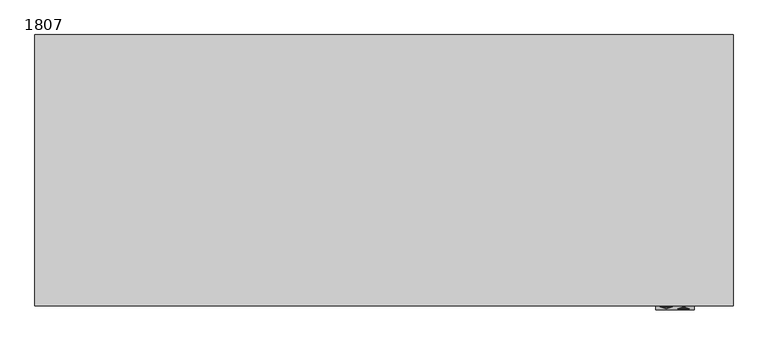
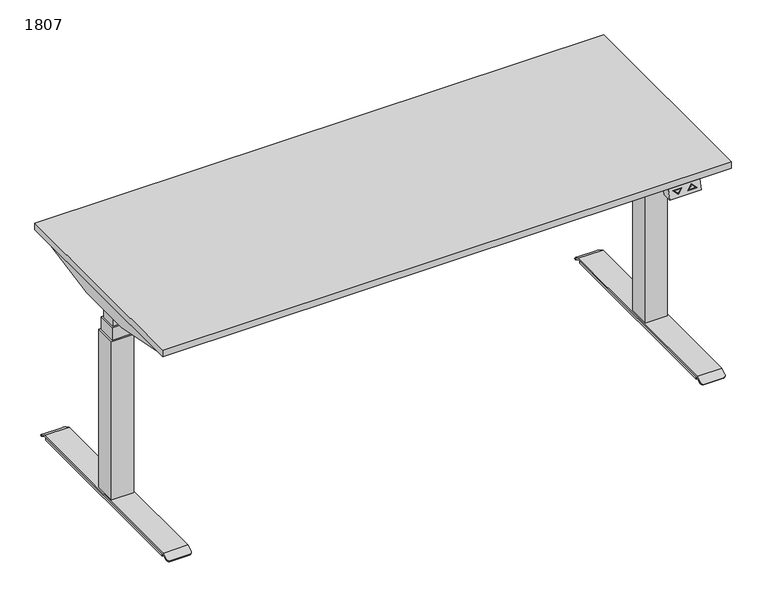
"""IFC4 building model written with IfcOpenShell, lengths in millimetres: furniture geometry, PINTA EQC : 1807."""

from ifc_helpers import new_model, si_unit, point, frame, frame_2d, origin, origin_with_axes, place, context, project, spatial, polyline, circle_curve, trimmed, segment, composite_curve, outline, extrude, faceted_brep, source, transform, mapped, element, save
from ifc_brep_helpers import plane_surface, cylinder_surface, advanced_brep


def furniture_1807_f50c2a5f(model_context):
    return source(origin(), model_context, "Body", "SolidModel", [
        faceted_brep([(700.0, -710.0, 668.0), (700.0, -680.0, 668.0), (800.0, -680.0, 668.0), (800.0, -710.0, 668.0), (700.0, -700.0, 698.0), (800.0, -700.0, 698.0), (800.0, -670.0, 698.0), (700.0, -670.0, 698.0), (712.5, -702.6491106, 690.0526681), (742.5, -702.6491106, 690.0526681), (727.5, -707.3925271, 675.8224186), (787.5, -706.9174824, 677.2475529), (757.5, -706.9174824, 677.2475529), (772.5, -702.1740659, 691.4778023), (727.5, -706.4980999, 678.5057002), (737.6715729, -703.2815662, 688.1553015), (717.3284271, -703.2815662, 688.1553015), (782.6715729, -706.2850268, 679.1449195), (772.5, -703.0684931, 688.7945208), (762.3284271, -706.2850268, 679.1449195), (742.5, -701.7004273, 689.7364403), (712.5, -701.7004273, 689.7364403), (727.5, -706.4438438, 675.5061908), (737.6715729, -702.3328829, 687.8390737), (727.5, -705.5494166, 678.1894724), (717.3284271, -702.3328829, 687.8390737), (757.5, -705.9687991, 676.9313251), (787.5, -705.9687991, 676.9313251), (772.5, -701.2253826, 691.1615746), (772.5, -702.1198098, 688.478293), (782.6715729, -705.3363436, 678.8286917), (762.3284271, -705.3363436, 678.8286917)], [[[0, 1, 2, 3]], [[4, 5, 6, 7]], [[1, 0, 4, 7]], [[3, 2, 6, 5]], [[0, 3, 5, 4], [8, 9, 10], [11, 12, 13]], [[14, 15, 16]], [[17, 18, 19]], [[2, 1, 7, 6]], [[20, 21, 22], [23, 24, 25]], [[26, 27, 28], [29, 30, 31]], [[21, 20, 9, 8]], [[22, 21, 8, 10]], [[20, 22, 10, 9]], [[27, 26, 12, 11]], [[28, 27, 11, 13]], [[26, 28, 13, 12]], [[24, 23, 15, 14]], [[25, 24, 14, 16]], [[23, 25, 16, 15]], [[30, 29, 18, 17]], [[31, 30, 17, 19]], [[29, 31, 19, 18]]]),
        extrude(outline(polyline([(-880.0, -269.7732113), (880.0, -269.7733158), (880.0, -289.7733158), (-880.0, -289.7732113), (-880.0, -269.7732113)])), frame((0.0, 0.0, 658.0), z_axis=(0.0, 0.0, 1.0), x_axis=(1.0, 0.0, 0.0)), (0.0, 0.0, 1.0), 40.0),
        extrude(outline(polyline([(-880.0, -409.7732114), (880.0, -409.7733158), (880.0, -429.7733158), (-880.0, -429.7732114), (-880.0, -409.7732114)])), frame((0.0, 0.0, 658.0), z_axis=(0.0, 0.0, 1.0), x_axis=(1.0, 0.0, 0.0)), (0.0, 0.0, 1.0), 40.0),
        extrude(outline(polyline([(-900.0, -700.0), (-900.0, 0.0), (900.0, 0.0), (900.0, -700.0), (-900.0, -700.0)])), frame((0.0, 0.0, 698.0), z_axis=(0.0, 0.0, 1.0), x_axis=(1.0, 0.0, 0.0)), (0.0, 0.0, 1.0), 22.0),
        advanced_brep(
        [(806.9772339, -670.0, 6.0), (806.9772339, -670.0, 16.0), (806.9772339, -30.0, 16.0), (806.9772339, -30.0, 6.0), (883.0227661, -30.0, 16.0), (883.0227661, -30.0, 6.0), (883.0227661, -670.0, 16.0), (883.0227661, -670.0, 6.0), (806.0, -25.0, 20.0), (806.0, -6.9800481, 9.908827), (806.0, -8.9344616, 6.4188029), (806.0, -26.0437422, 16.0), (806.0, -673.9562578, 16.0), (806.0, -691.0655384, 6.4188029), (806.0, -693.0199519, 9.908827), (806.0, -675.0, 20.0), (884.0, -26.0437422, 16.0), (884.0, -8.9344616, 6.4188029), (884.0, -6.9800481, 9.908827), (884.0, -25.0, 20.0), (884.0, -675.0, 20.0), (884.0, -693.0199519, 9.908827), (884.0, -691.0655384, 6.4188029), (884.0, -673.9562578, 16.0), (814.0, -700.0, 6.0), (876.0, -700.0, 6.0), (814.0, -698.0455865, 2.5099759), (876.0, -698.0455865, 2.5099759), (814.0, -1.9544135, 2.5099759), (876.0, -1.9544135, 2.5099759), (814.0, 0.0, 6.0), (876.0, 0.0, 6.0)],
        [
            (0, 1),
            (1, 2),
            (2, 3),
            (3, 0),
            (2, 4),
            (4, 5),
            (5, 3),
            (4, 6),
            (6, 7),
            (7, 5),
            (6, 1),
            (0, 7),
            (8, 9),
            (9, 10),
            (10, 11),
            (11, 12),
            (12, 13),
            (13, 14),
            (14, 15),
            (15, 8),
            (16, 17),
            (17, 18),
            (18, 19),
            (19, 20),
            (20, 21),
            (21, 22),
            (22, 23),
            (23, 16),
            (15, 20),
            (19, 8),
            (11, 16),
            (23, 12),
            (14, 24, circle_curve(frame((814.0, -693.0199519, 9.908827), z_axis=(0.0, -0.4886033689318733, 0.8725060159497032), x_axis=(0.0, 0.8725060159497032, 0.4886033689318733)), 8.0)),
            (24, 25),
            (25, 21, circle_curve(frame((876.0, -693.0199519, 9.908827), z_axis=(0.0, -0.4886033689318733, 0.8725060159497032), x_axis=(0.0, 0.8725060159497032, 0.4886033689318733)), 8.0)),
            (24, 26),
            (26, 27),
            (27, 25),
            (22, 27, circle_curve(frame((876.0, -691.0655384, 6.4188029), z_axis=(0.0, 0.4886033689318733, -0.8725060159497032), x_axis=(0.0, 0.8725060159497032, 0.4886033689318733)), 8.0)),
            (26, 13, circle_curve(frame((814.0, -691.0655384, 6.4188029), z_axis=(0.0, 0.4886033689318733, -0.8725060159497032), x_axis=(0.0, 0.8725060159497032, 0.4886033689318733)), 8.0)),
            (10, 28, circle_curve(frame((814.0, -8.9344616, 6.4188029), z_axis=(0.0, -0.4886033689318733, -0.8725060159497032), x_axis=(0.0, -0.8725060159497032, 0.4886033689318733)), 8.0)),
            (28, 29),
            (29, 17, circle_curve(frame((876.0, -8.9344616, 6.4188029), z_axis=(0.0, -0.4886033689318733, -0.8725060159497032), x_axis=(0.0, -0.8725060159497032, 0.4886033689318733)), 8.0)),
            (28, 30),
            (30, 31),
            (31, 29),
            (18, 31, circle_curve(frame((876.0, -6.9800481, 9.908827), z_axis=(0.0, 0.4886033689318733, 0.8725060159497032), x_axis=(0.0, -0.8725060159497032, 0.4886033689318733)), 8.0)),
            (30, 9, circle_curve(frame((814.0, -6.9800481, 9.908827), z_axis=(0.0, 0.4886033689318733, 0.8725060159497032), x_axis=(0.0, -0.8725060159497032, 0.4886033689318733)), 8.0)),
        ],
        [
            plane_surface(frame((806.9772339, -670.0, 16.0), z_axis=(-1.0, 0.0, 0.0), x_axis=(0.0, 0.0, -1.0))),
            plane_surface(frame((806.9772339, -30.0, 16.0), z_axis=(0.0, 1.0, 0.0), x_axis=(0.0, 0.0, -1.0))),
            plane_surface(frame((883.0227661, -30.0, 16.0), z_axis=(1.0, 0.0, 0.0), x_axis=(0.0, 0.0, -1.0))),
            plane_surface(frame((883.0227661, -670.0, 16.0), z_axis=(0.0, -1.0, 0.0), x_axis=(0.0, 0.0, -1.0))),
            plane_surface(frame((806.9772339, -673.4188232, 6.0), z_axis=(0.0, 0.0, -1.0), x_axis=(0.0, -1.0, 0.0))),
            plane_surface(frame((806.0, -350.0, 20.0), z_axis=(-1.0, 0.0, 0.0), x_axis=(0.0, -1.0, 0.0))),
            plane_surface(frame((884.0, -350.0, 20.0), z_axis=(1.0, 0.0, 0.0), x_axis=(0.0, 1.0, 0.0))),
            plane_surface(frame((806.0, -25.0, 20.0), z_axis=(0.0, 0.0, 1.0), x_axis=(1.0, 0.0, 0.0))),
            plane_surface(frame((806.0, -673.9562578, 16.0), z_axis=(0.0, 0.0, -1.0), x_axis=(1.0, 0.0, 0.0))),
            plane_surface(frame((806.0, -675.0, 20.0), z_axis=(0.0, -0.4886033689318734, 0.8725060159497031), x_axis=(1.0, 0.0, 0.0))),
            plane_surface(frame((806.0, -700.0, 6.0), z_axis=(0.0, -0.872506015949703, -0.4886033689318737), x_axis=(1.0, 0.0, 0.0))),
            plane_surface(frame((806.0, -698.0455865, 2.5099759), z_axis=(0.0, 0.4886033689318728, -0.8725060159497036), x_axis=(1.0, 0.0, 0.0))),
            plane_surface(frame((806.0, -26.0437422, 16.0), z_axis=(0.0, -0.4886033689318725, -0.8725060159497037), x_axis=(1.0, 0.0, 0.0))),
            plane_surface(frame((806.0, -1.9544135, 2.5099759), z_axis=(0.0, 0.8725060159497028, -0.48860336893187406), x_axis=(1.0, 0.0, 0.0))),
            plane_surface(frame((806.0, 0.0, 6.0), z_axis=(0.0, 0.48860336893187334, 0.8725060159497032), x_axis=(1.0, 0.0, 0.0))),
            cylinder_surface(frame((814.0, -693.0199519, 9.908827), z_axis=(0.0, -0.4886033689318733, 0.8725060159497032), x_axis=(0.0, 0.8725060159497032, 0.4886033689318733)), 8.0),
            cylinder_surface(frame((876.0, -693.0199519, 9.908827), z_axis=(0.0, -0.4886033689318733, 0.8725060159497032), x_axis=(0.0, 0.8725060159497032, 0.4886033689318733)), 8.0),
            cylinder_surface(frame((814.0, -6.9800481, 9.908827), z_axis=(0.0, 0.4886033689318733, 0.8725060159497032), x_axis=(0.0, -0.8725060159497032, 0.4886033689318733)), 8.0),
            cylinder_surface(frame((876.0, -6.9800481, 9.908827), z_axis=(0.0, 0.4886033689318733, 0.8725060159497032), x_axis=(0.0, -0.8725060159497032, 0.4886033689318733)), 8.0),
        ],
        [
            (0, [[1, 2, 3, 4]]),
            (1, [[-3, 5, 6, 7]]),
            (2, [[-6, 8, 9, 10]]),
            (3, [[-9, 11, -1, 12]]),
            (4, [[-4, -7, -10, -12]]),
            (5, [[13, 14, 15, 16, 17, 18, 19, 20]]),
            (6, [[21, 22, 23, 24, 25, 26, 27, 28]]),
            (7, [[29, -24, 30, -20]]),
            (8, [[31, -28, 32, -16], [-11, -8, -5, -2]]),
            (9, [[-19, 33, 34, 35, -25, -29]]),
            (10, [[36, 37, 38, -34]]),
            (11, [[-27, 39, -37, 40, -17, -32]]),
            (12, [[-15, 41, 42, 43, -21, -31]]),
            (13, [[44, 45, 46, -42]]),
            (14, [[-23, 47, -45, 48, -13, -30]]),
            (15, [[-40, -36, -33, -18]]),
            (16, [[-35, -38, -39, -26]]),
            (17, [[-48, -44, -41, -14]]),
            (18, [[-43, -46, -47, -22]]),
        ],
    ),
        faceted_brep([(679.4551307, -410.0, 698.0), (862.9996948, -410.0, 698.0), (862.9996948, -650.0, 698.0), (879.4551307, -650.0, 698.0), (883.0, -650.0, 698.0), (883.0, -50.0, 698.0), (879.4551307, -50.0, 698.0), (862.9996948, -50.0, 698.0), (862.9996948, -290.0, 698.0), (679.4551307, -290.0, 698.0), (679.4551307, -410.0, 635.2327881), (679.4551307, -290.0, 635.2327881), (879.4551307, -290.0, 635.2327881), (879.4551307, -253.8252348, 635.2327881), (883.0, -253.8252348, 635.2327881), (883.0, -446.1747652, 635.2327881), (879.4551307, -446.1747652, 635.2327881), (879.4551307, -410.0, 635.2327881), (862.9996948, -290.0, 694.9093018), (879.4551307, -290.0, 694.9093018), (879.4551307, -410.0, 694.9093018), (862.9996948, -410.0, 694.9093018), (879.4551307, -650.0, 694.9093018), (862.9996948, -650.0, 694.9093018), (879.4551307, -50.0, 694.9093018), (862.9996948, -50.0, 694.9093018), (879.4551307, -51.1249222, 694.9093018), (879.4551307, -648.8750778, 694.9093018), (879.4551307, -58.5505036, 674.5076845), (879.4551307, -641.4494964, 674.5076845), (883.0, -58.5505036, 674.5076845), (883.0, -641.4494964, 674.5076845)], [[[0, 1, 2, 3, 4, 5, 6, 7, 8, 9]], [[10, 11, 12, 13, 14, 15, 16, 17]], [[9, 11, 10, 0]], [[11, 9, 8, 18, 19, 12]], [[17, 20, 21, 1, 0, 10]], [[22, 3, 2, 23]], [[24, 25, 7, 6]], [[24, 26, 19, 18, 25]], [[23, 21, 20, 27, 22]], [[2, 1, 21, 23]], [[25, 18, 8, 7]], [[13, 12, 19, 26, 28]], [[29, 27, 20, 17, 16]], [[15, 14, 30, 5, 4, 31]], [[16, 15, 31, 29]], [[22, 27, 3]], [[6, 26, 24]], [[4, 3, 27, 29, 31]], [[28, 30, 14, 13]], [[30, 28, 26, 6, 5]]]),
        extrude(outline(composite_curve([segment(trimmed(circle_curve(frame_2d((845.0, -655.0)), 25.0), [point((870.0, -655.0))], [point((820.0, -655.0))], False, "CARTESIAN"), True, "CONTINUOUS"), segment(trimmed(circle_curve(frame_2d((845.0, -655.0)), 25.0), [point((820.0, -655.0))], [point((870.0, -655.0))], False, "CARTESIAN"), True, "CONTINUOUS")], self_intersect=False)), origin_with_axes(), (0.0, 0.0, 1.0), 6.0),
        extrude(outline(composite_curve([segment(trimmed(circle_curve(frame_2d((845.0, -45.0)), 25.0), [point((870.0, -45.0))], [point((820.0, -45.0))], False, "CARTESIAN"), True, "CONTINUOUS"), segment(trimmed(circle_curve(frame_2d((845.0, -45.0)), 25.0), [point((820.0, -45.0))], [point((870.0, -45.0))], False, "CARTESIAN"), True, "CONTINUOUS")], self_intersect=False)), origin_with_axes(), (0.0, 0.0, 1.0), 6.0),
        faceted_brep([(810.0, -315.0, 550.0), (810.0, -384.9621325, 550.0), (880.0, -384.9621325, 550.0), (880.0, -315.0, 550.0), (875.0, -320.0, 550.0), (875.0, -379.9621325, 550.0), (815.0, -379.9621325, 550.0), (815.0, -320.0, 550.0), (810.0, -315.0, 20.0), (880.0, -315.0, 20.0), (880.0, -384.9621325, 20.0), (810.0, -384.9621325, 20.0), (815.0, -320.0, 592.616394), (815.0, -379.9621325, 592.616394), (875.0, -379.9621325, 592.616394), (875.0, -320.0, 592.616394), (870.0, -325.0, 592.616394), (870.0, -374.9621325, 592.616394), (820.0, -374.9621325, 592.616394), (820.0, -325.0, 592.616394), (820.0, -325.0, 635.2327881), (820.0, -374.9621325, 635.2327881), (870.0, -374.9621325, 635.2327881), (870.0, -325.0, 635.2327881)], [[[0, 1, 2, 3], [4, 5, 6, 7]], [[8, 9, 10, 11]], [[3, 9, 8, 0]], [[2, 10, 9, 3]], [[1, 11, 10, 2]], [[0, 8, 11, 1]], [[12, 13, 14, 15], [16, 17, 18, 19]], [[15, 4, 7, 12]], [[14, 5, 4, 15]], [[13, 6, 5, 14]], [[12, 7, 6, 13]], [[20, 21, 22, 23]], [[23, 16, 19, 20]], [[22, 17, 16, 23]], [[21, 18, 17, 22]], [[20, 19, 18, 21]]]),
        advanced_brep(
        [(-806.9772339, -670.0, 6.0), (-806.9772339, -30.0, 6.0), (-806.9772339, -30.0, 16.0), (-806.9772339, -670.0, 16.0), (-883.0227661, -30.0, 6.0), (-883.0227661, -30.0, 16.0), (-883.0227661, -670.0, 6.0), (-883.0227661, -670.0, 16.0), (-806.0, -25.0, 20.0), (-806.0, -675.0, 20.0), (-806.0, -693.0199519, 9.908827), (-806.0, -691.0655384, 6.4188029), (-806.0, -673.9562578, 16.0), (-806.0, -26.0437422, 16.0), (-806.0, -8.9344616, 6.4188029), (-806.0, -6.9800481, 9.908827), (-884.0, -26.0437422, 16.0), (-884.0, -673.9562578, 16.0), (-884.0, -691.0655384, 6.4188029), (-884.0, -693.0199519, 9.908827), (-884.0, -675.0, 20.0), (-884.0, -25.0, 20.0), (-884.0, -6.9800481, 9.908827), (-884.0, -8.9344616, 6.4188029), (-876.0, -700.0, 6.0), (-814.0, -700.0, 6.0), (-876.0, -698.0455865, 2.5099759), (-814.0, -698.0455865, 2.5099759), (-876.0, -1.9544135, 2.5099759), (-814.0, -1.9544135, 2.5099759), (-876.0, 0.0, 6.0), (-814.0, 0.0, 6.0)],
        [
            (0, 1),
            (1, 2),
            (2, 3),
            (3, 0),
            (1, 4),
            (4, 5),
            (5, 2),
            (4, 6),
            (6, 7),
            (7, 5),
            (6, 0),
            (3, 7),
            (8, 9),
            (9, 10),
            (10, 11),
            (11, 12),
            (12, 13),
            (13, 14),
            (14, 15),
            (15, 8),
            (16, 17),
            (17, 18),
            (18, 19),
            (19, 20),
            (20, 21),
            (21, 22),
            (22, 23),
            (23, 16),
            (8, 21),
            (20, 9),
            (12, 17),
            (16, 13),
            (19, 24, circle_curve(frame((-876.0, -693.0199519, 9.908827), z_axis=(0.0, -0.4886033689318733, 0.8725060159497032), x_axis=(0.0, 0.8725060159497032, 0.4886033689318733)), 8.0)),
            (24, 25),
            (25, 10, circle_curve(frame((-814.0, -693.0199519, 9.908827), z_axis=(0.0, -0.4886033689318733, 0.8725060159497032), x_axis=(0.0, 0.8725060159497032, 0.4886033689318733)), 8.0)),
            (24, 26),
            (26, 27),
            (27, 25),
            (11, 27, circle_curve(frame((-814.0, -691.0655384, 6.4188029), z_axis=(0.0, 0.4886033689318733, -0.8725060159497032), x_axis=(0.0, 0.8725060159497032, 0.4886033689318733)), 8.0)),
            (26, 18, circle_curve(frame((-876.0, -691.0655384, 6.4188029), z_axis=(0.0, 0.4886033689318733, -0.8725060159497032), x_axis=(0.0, 0.8725060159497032, 0.4886033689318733)), 8.0)),
            (23, 28, circle_curve(frame((-876.0, -8.9344616, 6.4188029), z_axis=(0.0, -0.4886033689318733, -0.8725060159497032), x_axis=(0.0, -0.8725060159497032, 0.4886033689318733)), 8.0)),
            (28, 29),
            (29, 14, circle_curve(frame((-814.0, -8.9344616, 6.4188029), z_axis=(0.0, -0.4886033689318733, -0.8725060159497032), x_axis=(0.0, -0.8725060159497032, 0.4886033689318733)), 8.0)),
            (28, 30),
            (30, 31),
            (31, 29),
            (15, 31, circle_curve(frame((-814.0, -6.9800481, 9.908827), z_axis=(0.0, 0.4886033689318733, 0.8725060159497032), x_axis=(0.0, -0.8725060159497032, 0.4886033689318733)), 8.0)),
            (30, 22, circle_curve(frame((-876.0, -6.9800481, 9.908827), z_axis=(0.0, 0.4886033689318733, 0.8725060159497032), x_axis=(0.0, -0.8725060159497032, 0.4886033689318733)), 8.0)),
        ],
        [
            plane_surface(frame((-806.9772339, -670.0, 16.0), z_axis=(1.0, 0.0, 0.0), x_axis=(0.0, 0.0, -1.0))),
            plane_surface(frame((-806.9772339, -30.0, 16.0), z_axis=(0.0, 1.0, 0.0), x_axis=(0.0, 0.0, -1.0))),
            plane_surface(frame((-883.0227661, -30.0, 16.0), z_axis=(-1.0, 0.0, 0.0), x_axis=(0.0, 0.0, -1.0))),
            plane_surface(frame((-883.0227661, -670.0, 16.0), z_axis=(0.0, -1.0, 0.0), x_axis=(0.0, 0.0, -1.0))),
            plane_surface(frame((-806.9772339, -673.4188232, 6.0), z_axis=(0.0, 0.0, -1.0), x_axis=(0.0, -1.0, 0.0))),
            plane_surface(frame((-806.0, -350.0, 20.0), z_axis=(1.0, 0.0, 0.0), x_axis=(0.0, -1.0, 0.0))),
            plane_surface(frame((-884.0, -350.0, 20.0), z_axis=(-1.0, 0.0, 0.0), x_axis=(0.0, 1.0, 0.0))),
            plane_surface(frame((-806.0, -25.0, 20.0), z_axis=(0.0, 0.0, 1.0), x_axis=(-1.0, 0.0, 0.0))),
            plane_surface(frame((-806.0, -673.9562578, 16.0), z_axis=(0.0, 0.0, -1.0), x_axis=(-1.0, 0.0, 0.0))),
            plane_surface(frame((-806.0, -675.0, 20.0), z_axis=(0.0, -0.4886033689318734, 0.8725060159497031), x_axis=(-1.0, 0.0, 0.0))),
            plane_surface(frame((-806.0, -700.0, 6.0), z_axis=(0.0, -0.872506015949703, -0.4886033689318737), x_axis=(-1.0, 0.0, 0.0))),
            plane_surface(frame((-806.0, -698.0455865, 2.5099759), z_axis=(0.0, 0.4886033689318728, -0.8725060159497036), x_axis=(-1.0, 0.0, 0.0))),
            plane_surface(frame((-806.0, -26.0437422, 16.0), z_axis=(0.0, -0.4886033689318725, -0.8725060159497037), x_axis=(-1.0, 0.0, 0.0))),
            plane_surface(frame((-806.0, -1.9544135, 2.5099759), z_axis=(0.0, 0.8725060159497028, -0.48860336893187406), x_axis=(-1.0, 0.0, 0.0))),
            plane_surface(frame((-806.0, 0.0, 6.0), z_axis=(0.0, 0.48860336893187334, 0.8725060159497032), x_axis=(-1.0, 0.0, 0.0))),
            cylinder_surface(frame((-814.0, -693.0199519, 9.908827), z_axis=(0.0, -0.4886033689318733, 0.8725060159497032), x_axis=(0.0, 0.8725060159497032, 0.4886033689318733)), 8.0),
            cylinder_surface(frame((-876.0, -693.0199519, 9.908827), z_axis=(0.0, -0.4886033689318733, 0.8725060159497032), x_axis=(0.0, 0.8725060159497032, 0.4886033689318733)), 8.0),
            cylinder_surface(frame((-814.0, -6.9800481, 9.908827), z_axis=(0.0, 0.4886033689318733, 0.8725060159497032), x_axis=(0.0, -0.8725060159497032, 0.4886033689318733)), 8.0),
            cylinder_surface(frame((-876.0, -6.9800481, 9.908827), z_axis=(0.0, 0.4886033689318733, 0.8725060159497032), x_axis=(0.0, -0.8725060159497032, 0.4886033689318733)), 8.0),
        ],
        [
            (0, [[1, 2, 3, 4]]),
            (1, [[5, 6, 7, -2]]),
            (2, [[8, 9, 10, -6]]),
            (3, [[11, -4, 12, -9]]),
            (4, [[-11, -8, -5, -1]]),
            (5, [[13, 14, 15, 16, 17, 18, 19, 20]]),
            (6, [[21, 22, 23, 24, 25, 26, 27, 28]]),
            (7, [[-13, 29, -25, 30]]),
            (8, [[-17, 31, -21, 32], [-3, -7, -10, -12]]),
            (9, [[-30, -24, 33, 34, 35, -14]]),
            (10, [[-34, 36, 37, 38]]),
            (11, [[-31, -16, 39, -37, 40, -22]]),
            (12, [[-32, -28, 41, 42, 43, -18]]),
            (13, [[-42, 44, 45, 46]]),
            (14, [[-29, -20, 47, -45, 48, -26]]),
            (15, [[-15, -35, -38, -39]]),
            (16, [[-23, -40, -36, -33]]),
            (17, [[-19, -43, -46, -47]]),
            (18, [[-27, -48, -44, -41]]),
        ],
    ),
        faceted_brep([(-679.4551307, -410.0, 698.0), (-679.4551307, -290.0, 698.0), (-862.9996948, -290.0, 698.0), (-862.9996948, -50.0, 698.0), (-879.4551307, -50.0, 698.0), (-883.0, -50.0, 698.0), (-883.0, -650.0, 698.0), (-879.4551307, -650.0, 698.0), (-862.9996948, -650.0, 698.0), (-862.9996948, -410.0, 698.0), (-679.4551307, -410.0, 635.2327881), (-879.4551307, -410.0, 635.2327881), (-879.4551307, -446.1747652, 635.2327881), (-883.0, -446.1747652, 635.2327881), (-883.0, -253.8252348, 635.2327881), (-879.4551307, -253.8252348, 635.2327881), (-879.4551307, -290.0, 635.2327881), (-679.4551307, -290.0, 635.2327881), (-879.4551307, -290.0, 694.9093018), (-862.9996948, -290.0, 694.9093018), (-862.9996948, -410.0, 694.9093018), (-879.4551307, -410.0, 694.9093018), (-879.4551307, -650.0, 694.9093018), (-862.9996948, -650.0, 694.9093018), (-879.4551307, -50.0, 694.9093018), (-862.9996948, -50.0, 694.9093018), (-879.4551307, -648.8750778, 694.9093018), (-879.4551307, -51.1249222, 694.9093018), (-879.4551307, -641.4494964, 674.5076845), (-879.4551307, -58.5505036, 674.5076845), (-883.0, -641.4494964, 674.5076845), (-883.0, -58.5505036, 674.5076845)], [[[0, 1, 2, 3, 4, 5, 6, 7, 8, 9]], [[10, 11, 12, 13, 14, 15, 16, 17]], [[1, 0, 10, 17]], [[17, 16, 18, 19, 2, 1]], [[11, 10, 0, 9, 20, 21]], [[22, 23, 8, 7]], [[24, 4, 3, 25]], [[23, 22, 26, 21, 20]], [[24, 25, 19, 18, 27]], [[8, 23, 20, 9]], [[25, 3, 2, 19]], [[28, 12, 11, 21, 26]], [[15, 29, 27, 18, 16]], [[13, 30, 6, 5, 31, 14]], [[12, 28, 30, 13]], [[22, 7, 26]], [[4, 24, 27]], [[6, 30, 28, 26, 7]], [[29, 15, 14, 31]], [[31, 5, 4, 27, 29]]]),
        extrude(outline(composite_curve([segment(trimmed(circle_curve(frame_2d((-845.0, -655.0)), 25.0), [point((-870.0, -655.0))], [point((-820.0, -655.0))], False, "CARTESIAN"), True, "CONTINUOUS"), segment(trimmed(circle_curve(frame_2d((-845.0, -655.0)), 25.0), [point((-820.0, -655.0))], [point((-870.0, -655.0))], False, "CARTESIAN"), True, "CONTINUOUS")], self_intersect=False)), origin_with_axes(), (0.0, 0.0, 1.0), 6.0),
        extrude(outline(composite_curve([segment(trimmed(circle_curve(frame_2d((-845.0, -45.0)), 25.0), [point((-870.0, -45.0))], [point((-820.0, -45.0))], False, "CARTESIAN"), True, "CONTINUOUS"), segment(trimmed(circle_curve(frame_2d((-845.0, -45.0)), 25.0), [point((-820.0, -45.0))], [point((-870.0, -45.0))], False, "CARTESIAN"), True, "CONTINUOUS")], self_intersect=False)), origin_with_axes(), (0.0, 0.0, 1.0), 6.0),
        faceted_brep([(-810.0, -315.0, 550.0), (-880.0, -315.0, 550.0), (-880.0, -384.9621325, 550.0), (-810.0, -384.9621325, 550.0), (-875.0, -320.0, 550.0), (-815.0, -320.0, 550.0), (-815.0, -379.9621325, 550.0), (-875.0, -379.9621325, 550.0), (-810.0, -315.0, 20.0), (-810.0, -384.9621325, 20.0), (-880.0, -384.9621325, 20.0), (-880.0, -315.0, 20.0), (-815.0, -320.0, 592.616394), (-875.0, -320.0, 592.616394), (-875.0, -379.9621325, 592.616394), (-815.0, -379.9621325, 592.616394), (-870.0, -325.0, 592.616394), (-820.0, -325.0, 592.616394), (-820.0, -374.9621325, 592.616394), (-870.0, -374.9621325, 592.616394), (-820.0, -325.0, 635.2327881), (-870.0, -325.0, 635.2327881), (-870.0, -374.9621325, 635.2327881), (-820.0, -374.9621325, 635.2327881)], [[[0, 1, 2, 3], [4, 5, 6, 7]], [[8, 9, 10, 11]], [[1, 0, 8, 11]], [[2, 1, 11, 10]], [[3, 2, 10, 9]], [[0, 3, 9, 8]], [[12, 13, 14, 15], [16, 17, 18, 19]], [[13, 12, 5, 4]], [[14, 13, 4, 7]], [[15, 14, 7, 6]], [[12, 15, 6, 5]], [[20, 21, 22, 23]], [[21, 20, 17, 16]], [[22, 21, 16, 19]], [[23, 22, 19, 18]], [[20, 23, 18, 17]]]),
    ])


if __name__ == "__main__":
    model = new_model("IFC4")
    model_context = context("Model", 3, world=origin())
    ifc_project = project(units=[si_unit("LENGTHUNIT", "METRE", prefix="MILLI")], contexts=[model_context])
    site = spatial("IfcSite", under=ifc_project)
    building = spatial("IfcBuilding", under=site)
    placement = place(None, origin())
    furniture_1807_shape = furniture_1807_f50c2a5f(model_context)
    element("IfcFurniture", 1, ObjectType="PINTA EQC : 1807", at=placement, inside=building, context=model_context, shape_type="MappedRepresentation", body=[
        mapped(furniture_1807_shape, transform((0.0, 0.0, 0.0), x_axis=(1.0, 0.0, 0.0), y_axis=(0.0, 1.0, 0.0), z_axis=(0.0, 0.0, 1.0))),
    ])
    save(model, "model.ifc")
